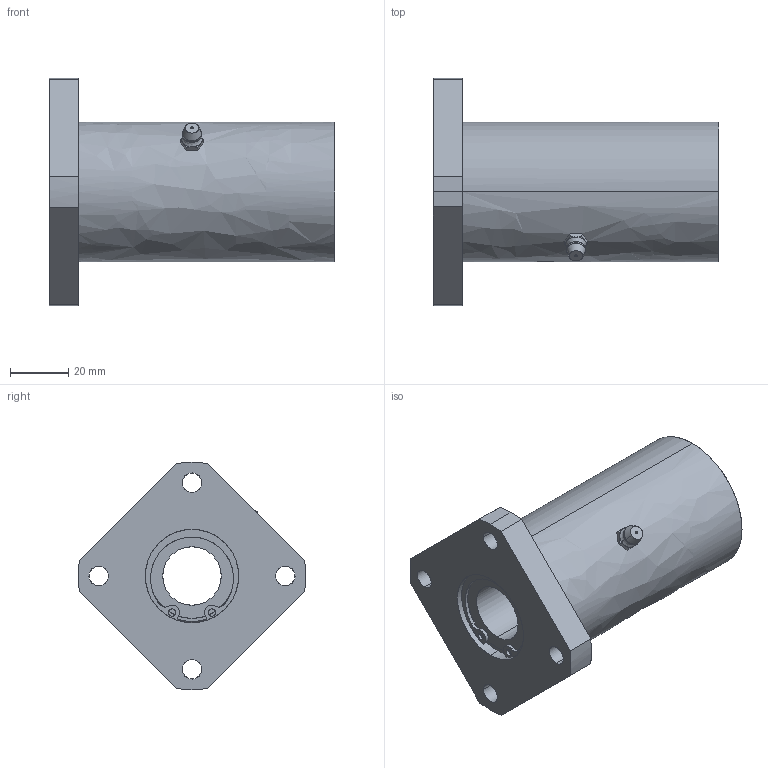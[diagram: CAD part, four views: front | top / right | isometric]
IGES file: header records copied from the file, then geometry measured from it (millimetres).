
Global section: file name: No Iges File Name specified; native system: AutoDesk Inventor R10; preprocessor: AutoDesk Inventor Iges Exporter R10; author: No Author specified; organization: No Organization specified; date: 20101214.140137; units: millimetre
Bounding box: 98 x 77.99 x 78 mm (x, y, z)
Surface area: 34012.1 mm2 (no closed solid volume)
Topology: 0 solids, 0 shells, 155 faces, 1069 edges, 1067 vertices
Faces by surface type: bspline 155
